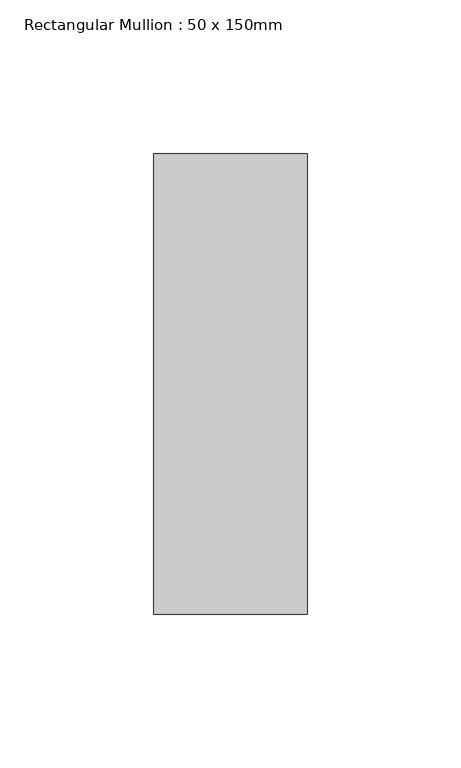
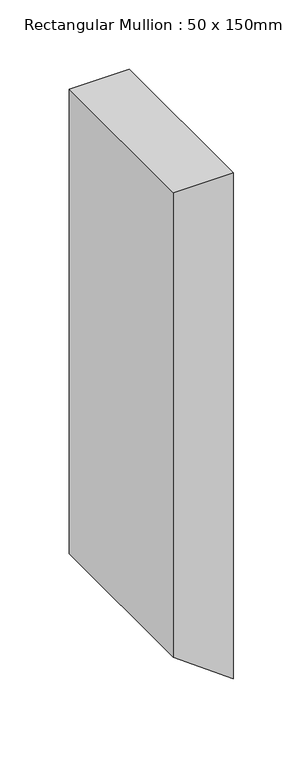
"""IFC4 building model written with IfcOpenShell, lengths in millimetres: member geometry, Rectangular Mullion : 50 x 150mm."""

import ifcopenshell
import ifcopenshell.guid

model = None  # the IFC model being written
_history = None  # IfcOwnerHistory: only IFC2X3 demands one
_inside = {}  # id of a spatial element -> (the spatial element, [elements in it])
_under = {}  # id of a project, library or spatial element -> (it, [spatial elements below it])
_declared = {}  # id of a project -> (the project, [libraries it declares])
_typed = {}  # id of a type object -> (the type object, [elements of that type])
_made_of = {}  # id of a material, layer set ... -> (it, [elements and type objects made of it])


def new_model(schema):
    """Start an empty IFC model of exactly this schema.

    Asked for "IFC4X3", IfcOpenShell would pick the latest addendum, in which some entities
    have other attributes; the version numbers below select the first issue.
    IFC2X3 requires an IfcOwnerHistory on every rooted entity: one is made here for all.
    """
    global model, _history
    if schema == "IFC4X3":
        model = ifcopenshell.file(schema_version=(4, 3, 0, 0))
    else:
        model = ifcopenshell.file(schema=schema)
    _inside.clear()
    _under.clear()
    _declared.clear()
    _typed.clear()
    _made_of.clear()
    _history = None
    if model.schema == "IFC2X3":
        org = make("IfcOrganization", Name="unknown")
        user = make(
            "IfcPersonAndOrganization",
            ThePerson=make("IfcPerson", FamilyName="unknown"),
            TheOrganization=org,
        )
        app = make(
            "IfcApplication",
            ApplicationDeveloper=org,
            Version="unknown",
            ApplicationFullName="unknown",
            ApplicationIdentifier="unknown",
        )
        _history = make(
            "IfcOwnerHistory",
            OwningUser=user,
            OwningApplication=app,
            ChangeAction="ADDED",
            CreationDate=0,
        )
    return model


def make(cls, **values):
    """One entity of the class cls with the attributes given. An attribute that is None is left unset."""
    return model.create_entity(
        cls, **{name: value for name, value in values.items() if value is not None}
    )


def rooted(cls, **values):
    """An entity with a GlobalId (a new one), such as an element, a storey or a relation."""
    return make(cls, GlobalId=ifcopenshell.guid.new(), OwnerHistory=_history, **values)


def si_unit(unit_type, name, prefix=None):
    """IfcSIUnit, for example si_unit("LENGTHUNIT", "METRE", prefix="MILLI")."""
    return make("IfcSIUnit", UnitType=unit_type, Prefix=prefix, Name=name)


def assignment(units):
    """IfcUnitAssignment: the units of a project."""
    return None if units is None else make("IfcUnitAssignment", Units=units)


def point(xyz):
    """IfcCartesianPoint."""
    return None if xyz is None else make("IfcCartesianPoint", Coordinates=xyz)


def direction(xyz):
    """IfcDirection."""
    return None if xyz is None else make("IfcDirection", DirectionRatios=xyz)


def frame(location, z_axis=None, x_axis=None):
    """IfcAxis2Placement3D, a coordinate frame: its origin and axes. An axis left out is left unset."""
    return make(
        "IfcAxis2Placement3D",
        Location=point(location),
        Axis=direction(z_axis),
        RefDirection=direction(x_axis),
    )


def origin():
    """The frame at (0, 0, 0) with its axes left unset."""
    return frame((0.0, 0.0, 0.0))


def place(relative_to, where):
    """IfcLocalPlacement: puts the frame where relative to a parent placement (None: the world)."""
    return make(
        "IfcLocalPlacement", PlacementRelTo=relative_to, RelativePlacement=where
    )


def context(
    kind, dimensions, precision=None, world=None, true_north=None, identifier=None
):
    """IfcGeometricRepresentationContext, for example the 3D "Model" context."""
    return make(
        "IfcGeometricRepresentationContext",
        ContextIdentifier=identifier,
        ContextType=kind,
        CoordinateSpaceDimension=dimensions,
        Precision=precision,
        WorldCoordinateSystem=world,
        TrueNorth=true_north,
    )


def project(units=None, contexts=None):
    """IfcProject with its units and contexts."""
    return rooted(
        "IfcProject",
        Name="project",
        RepresentationContexts=contexts,
        UnitsInContext=assignment(units),
    )


def spatial(cls, under=None, at=None, **own):
    """A site, building, storey or space (cls), placed at a placement, below another one or the project."""
    s = rooted(cls, ObjectPlacement=at, **own)
    if under is not None:
        _under.setdefault(under.id(), (under, []))[1].append(s)
    return s


def polyline(points):
    """IfcPolyline through the points."""
    return make("IfcPolyline", Points=[point(p) for p in points])


def outline(outer, holes=None, kind="AREA"):
    """IfcArbitraryClosedProfileDef: a profile drawn as a closed curve; with holes, ...WithVoids."""
    if holes is None:
        return make("IfcArbitraryClosedProfileDef", ProfileType=kind, OuterCurve=outer)
    return make(
        "IfcArbitraryProfileDefWithVoids",
        ProfileType=kind,
        OuterCurve=outer,
        InnerCurves=holes,
    )


def extrude(swept, where, along, depth):
    """IfcExtrudedAreaSolid: the profile swept, set in the frame where, extruded along a direction by depth."""
    return make(
        "IfcExtrudedAreaSolid",
        SweptArea=swept,
        Position=where,
        ExtrudedDirection=direction(along),
        Depth=depth,
    )


def shape(context_of_items, identifier, shape_type, items):
    """IfcShapeRepresentation: the items that make up one representation, for example the "Body"."""
    return make(
        "IfcShapeRepresentation",
        ContextOfItems=context_of_items,
        RepresentationIdentifier=identifier,
        RepresentationType=shape_type,
        Items=items,
    )


def source(mapping_origin, context_of_items, identifier, shape_type, items):
    """IfcRepresentationMap: a shape defined once, which mapped items show again and again."""
    return make(
        "IfcRepresentationMap",
        MappingOrigin=mapping_origin,
        MappedRepresentation=shape(context_of_items, identifier, shape_type, items),
    )


def transform(
    local_origin,
    x_axis=None,
    y_axis=None,
    z_axis=None,
    scale=None,
    scale2=None,
    scale3=None,
    uniform=True,
):
    """IfcCartesianTransformationOperator3D, or its non-uniform kind. x_axis, y_axis, z_axis: its Axis1, 2, 3."""
    if uniform:
        return make(
            "IfcCartesianTransformationOperator3D",
            Axis1=direction(x_axis),
            Axis2=direction(y_axis),
            LocalOrigin=point(local_origin),
            Scale=scale,
            Axis3=direction(z_axis),
        )
    return make(
        "IfcCartesianTransformationOperator3DnonUniform",
        Axis1=direction(x_axis),
        Axis2=direction(y_axis),
        LocalOrigin=point(local_origin),
        Scale=scale,
        Axis3=direction(z_axis),
        Scale2=scale2,
        Scale3=scale3,
    )


def mapped(mapping_source, mapping_target):
    """IfcMappedItem: shows the shape of a source again, moved by a transform."""
    return make(
        "IfcMappedItem", MappingSource=mapping_source, MappingTarget=mapping_target
    )


def made_of(thing, what):
    """Note that an element or type object is made of a material, layer set ...; save() writes the relation."""
    if what is not None:
        _made_of.setdefault(what.id(), (what, []))[1].append(thing)
    return thing


def element(
    cls,
    number,
    at=None,
    inside=None,
    cuts=None,
    type_object=None,
    material=None,
    context=None,
    identifier="Body",
    shape_type=None,
    held_by="IfcProductDefinitionShape",
    body=None,
    shapes=None,
    **own,
):
    """One element of the class cls, such as IfcWall. Its Tag is "e" and its number.

    at: its placement. inside: the storey or other place that contains it. cuts: it is an
    opening in that element (IfcRelVoidsElement). A single representation is given by context,
    identifier, shape_type and body (its items); several are given by shapes. held_by: the class
    of the entity that holds the representations. save() writes the other relations.
    """
    e = rooted(cls, Tag="e%d" % number, ObjectPlacement=at, **own)
    if body is not None:
        shapes = [shape(context, identifier, shape_type, body)]
    if shapes is not None:
        e.Representation = make(held_by, Representations=shapes)
    if inside is not None:
        _inside.setdefault(inside.id(), (inside, []))[1].append(e)
    if cuts is not None:
        rooted(
            "IfcRelVoidsElement", RelatingBuildingElement=cuts, RelatedOpeningElement=e
        )
    if type_object is not None:
        _typed.setdefault(type_object.id(), (type_object, []))[1].append(e)
    return made_of(e, material)


def aggregate(whole, parts):
    """IfcRelAggregates: a whole, such as a stair, and the parts it consists of."""
    return rooted("IfcRelAggregates", RelatingObject=whole, RelatedObjects=parts)


def save(model, path):
    """Write the relations noted so far, then the file.

    IfcRelAggregates (storeys below a building ...), IfcRelContainedInSpatialStructure (elements
    in a storey), IfcRelDefinesByType, IfcRelAssociatesMaterial and IfcRelDeclares: one each for
    every whole, place, type object, material and project.
    """
    for whole, parts in _under.values():
        aggregate(whole, parts)
    for where, things in _inside.values():
        rooted(
            "IfcRelContainedInSpatialStructure",
            RelatedElements=things,
            RelatingStructure=where,
        )
    for kind, things in _typed.values():
        rooted("IfcRelDefinesByType", RelatedObjects=things, RelatingType=kind)
    for what, things in _made_of.values():
        rooted("IfcRelAssociatesMaterial", RelatedObjects=things, RelatingMaterial=what)
    for by, libraries in _declared.values():
        rooted("IfcRelDeclares", RelatingContext=by, RelatedDefinitions=libraries)
    model.write(path)


def rectangular_mullion_50_x_150mm_53edf6cf(model_context):
    return source(origin(), model_context, "Body", "SweptSolid", [
        extrude(outline(polyline([(0.0, 25.0), (0.0, -25.0), (-408.9079503, -25.0), (-445.2350767, 25.0), (0.0, 25.0)])), frame((0.0, -75.0, 0.0), z_axis=(0.0, 1.0, 0.0), x_axis=(0.0, 0.0, 1.0)), (0.0, 0.0, 1.0), 150.0),
    ])


if __name__ == "__main__":
    model = new_model("IFC4")
    model_context = context("Model", 3, world=origin())
    ifc_project = project(units=[si_unit("LENGTHUNIT", "METRE", prefix="MILLI")], contexts=[model_context])
    site = spatial("IfcSite", under=ifc_project)
    building = spatial("IfcBuilding", under=site)
    placement = place(None, origin())
    rectangular_mullion_50_x_150mm_shape = rectangular_mullion_50_x_150mm_53edf6cf(model_context)
    element("IfcMember", 1, ObjectType="Rectangular Mullion : 50 x 150mm", at=placement, inside=building, context=model_context, shape_type="MappedRepresentation", body=[
        mapped(rectangular_mullion_50_x_150mm_shape, transform((0.0, 0.0, 0.0), x_axis=(1.0, 0.0, 0.0), y_axis=(0.0, 1.0, 0.0), z_axis=(0.0, 0.0, 1.0))),
    ])
    save(model, "model.ifc")
